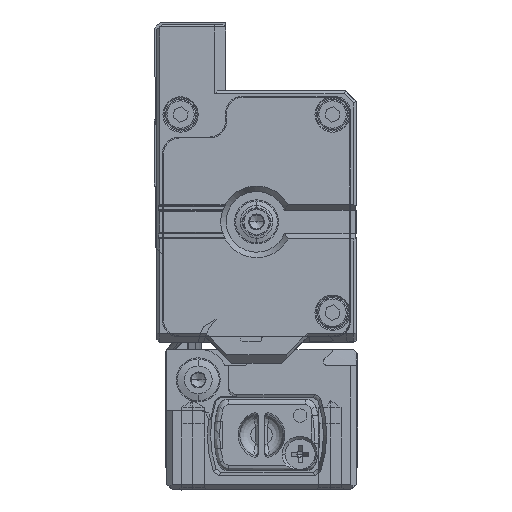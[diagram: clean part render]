
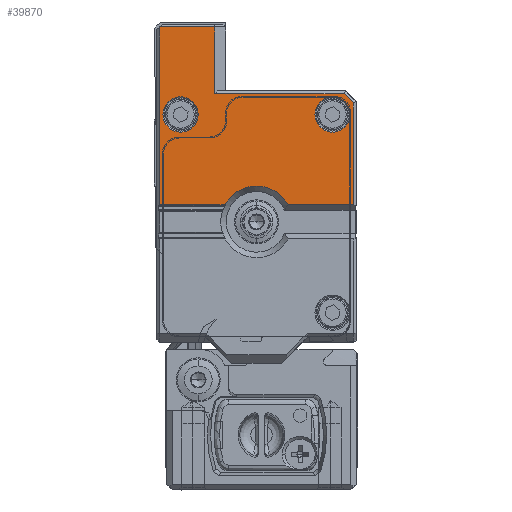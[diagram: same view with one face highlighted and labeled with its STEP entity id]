
A CAD part, left-side view. The second image highlights one B-rep face of the part: STEP entity #39870.
In plain terms, the highlighted planar face has unit normal (-1, 0, 0).
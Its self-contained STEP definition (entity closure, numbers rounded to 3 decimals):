
#34120=CARTESIAN_POINT('',(516.911,-28.8,
-61.394));
#34130=VERTEX_POINT('',#34120);
#34160=CARTESIAN_POINT('',(516.911,-28.8,
0.464));
#34170=DIRECTION('',(0.,0.,1.));
#34180=VECTOR('',#34170,1.);
#34190=LINE('',#34160,#34180);
#34200=CARTESIAN_POINT('',(516.911,-28.8,
-79.876));
#34210=VERTEX_POINT('',#34200);
#34220=EDGE_CURVE('',#34210,#34130,#34190,.T.);
#34810=CARTESIAN_POINT('',(516.911,-54.,
-81.583));
#34820=VERTEX_POINT('',#34810);
#34850=CARTESIAN_POINT('',(516.911,-54.,
-88.233));
#34860=DIRECTION('',(0.,0.,1.));
#34870=VECTOR('',#34860,1.);
#34880=LINE('',#34850,#34870);
#34890=CARTESIAN_POINT('',(516.911,-54.,
-93.683));
#34900=VERTEX_POINT('',#34890);
#34910=EDGE_CURVE('',#34900,#34820,#34880,.T.);
#36110=CARTESIAN_POINT('',(516.911,-30.507,
-81.583));
#36120=VERTEX_POINT('',#36110);
#36150=CARTESIAN_POINT('',(516.911,7.15,
-81.583));
#36160=DIRECTION('',(0.,1.,0.));
#36170=VECTOR('',#36160,1.);
#36180=LINE('',#36150,#36170);
#36190=EDGE_CURVE('',#34820,#36120,#36180,.T.);
#36390=CARTESIAN_POINT('',(516.911,-29.654,
-80.73));
#36400=DIRECTION('',(0.,0.707,
0.707));
#36410=VECTOR('',#36400,1.);
#36420=LINE('',#36390,#36410);
#36430=EDGE_CURVE('',#36120,#34210,#36420,.T.);
#38880=CARTESIAN_POINT('',(516.911,-64.,
-93.683));
#38890=VERTEX_POINT('',#38880);
#38940=CARTESIAN_POINT('',(516.911,7.15,
-93.683));
#38950=DIRECTION('',(0.,1.,0.));
#38960=VECTOR('',#38950,1.);
#38970=LINE('',#38940,#38960);
#38980=EDGE_CURVE('',#38890,#34900,#38970,.T.);
#39100=CARTESIAN_POINT('',(516.911,-51.404,
-48.302));
#39110=DIRECTION('',(-1.,0.,0.));
#39120=DIRECTION('',(0.,0.,1.));
#39130=AXIS2_PLACEMENT_3D('',#39100,#39110,#39120);
#39140=PLANE('',#39130);
#39150=CARTESIAN_POINT('',(516.911,-32.6,
-77.783));
#39160=DIRECTION('',(-1.,0.,0.));
#39170=DIRECTION('',(0.,1.,0.));
#39180=AXIS2_PLACEMENT_3D('',#39150,#39160,#39170);
#39190=CIRCLE('',#39180,3.2);
#39200=CARTESIAN_POINT('',(516.911,-29.4,
-77.783));
#39210=VERTEX_POINT('',#39200);
#39220=CARTESIAN_POINT('',(516.911,-35.8,
-77.783));
#39230=VERTEX_POINT('',#39220);
#39240=EDGE_CURVE('',#39210,#39230,#39190,.T.);
#39250=ORIENTED_EDGE('',*,*,#39240,.F.);
#39260=EDGE_CURVE('',#39230,#39210,#39190,.T.);
#39270=ORIENTED_EDGE('',*,*,#39260,.F.);
#39280=EDGE_LOOP('',(#39270,#39250));
#39290=FACE_BOUND('',#39280,.T.);
#39300=CARTESIAN_POINT('',(516.911,-60.2,
-77.783));
#39310=DIRECTION('',(-1.,0.,0.));
#39320=DIRECTION('',(0.,1.,0.));
#39330=AXIS2_PLACEMENT_3D('',#39300,#39310,#39320);
#39340=CIRCLE('',#39330,3.2);
#39350=CARTESIAN_POINT('',(516.911,-60.2,
-74.583));
#39360=VERTEX_POINT('',#39350);
#39370=CARTESIAN_POINT('',(516.911,-57.,
-77.783));
#39380=VERTEX_POINT('',#39370);
#39390=EDGE_CURVE('',#39360,#39380,#39340,.T.);
#39400=ORIENTED_EDGE('',*,*,#39390,.F.);
#39410=CARTESIAN_POINT('',(516.911,-63.4,
-77.783));
#39420=VERTEX_POINT('',#39410);
#39430=EDGE_CURVE('',#39380,#39420,#39340,.T.);
#39440=ORIENTED_EDGE('',*,*,#39430,.F.);
#39450=EDGE_CURVE('',#39420,#39360,#39340,.T.);
#39460=ORIENTED_EDGE('',*,*,#39450,.F.);
#39470=EDGE_LOOP('',(#39460,#39440,#39400));
#39480=FACE_BOUND('',#39470,.T.);
#39490=ORIENTED_EDGE('',*,*,#38980,.F.);
#39500=ORIENTED_EDGE('',*,*,#34910,.F.);
#39510=ORIENTED_EDGE('',*,*,#36190,.F.);
#39520=ORIENTED_EDGE('',*,*,#36430,.F.);
#39530=ORIENTED_EDGE('',*,*,#34220,.F.);
#39540=CARTESIAN_POINT('',(516.911,7.15,
-61.394));
#39550=DIRECTION('',(0.,1.,0.));
#39560=VECTOR('',#39550,1.);
#39570=LINE('',#39540,#39560);
#39580=CARTESIAN_POINT('',(516.911,-40.681,
-61.394));
#39590=VERTEX_POINT('',#39580);
#39600=EDGE_CURVE('',#39590,#34130,#39570,.T.);
#39610=ORIENTED_EDGE('',*,*,#39600,.T.);
#39620=CARTESIAN_POINT('',(516.911,-46.4,
-58.283));
#39630=DIRECTION('',(-1.,0.,0.));
#39640=DIRECTION('',(0.,-1.,0.));
#39650=AXIS2_PLACEMENT_3D('',#39620,#39630,#39640);
#39660=CIRCLE('',#39650,6.51);
#39670=CARTESIAN_POINT('',(516.911,-52.125,
-61.383));
#39680=VERTEX_POINT('',#39670);
#39690=EDGE_CURVE('',#39590,#39680,#39660,.T.);
#39700=ORIENTED_EDGE('',*,*,#39690,.F.);
#39710=CARTESIAN_POINT('',(516.911,7.15,
-61.383));
#39720=DIRECTION('',(0.,-1.,0.));
#39730=VECTOR('',#39720,1.);
#39740=LINE('',#39710,#39730);
#39750=CARTESIAN_POINT('',(516.911,-64.,
-61.383));
#39760=VERTEX_POINT('',#39750);
#39770=EDGE_CURVE('',#39680,#39760,#39740,.T.);
#39780=ORIENTED_EDGE('',*,*,#39770,.F.);
#39790=CARTESIAN_POINT('',(516.911,-64.,
0.464));
#39800=DIRECTION('',(0.,0.,1.));
#39810=VECTOR('',#39800,1.);
#39820=LINE('',#39790,#39810);
#39830=EDGE_CURVE('',#38890,#39760,#39820,.T.);
#39840=ORIENTED_EDGE('',*,*,#39830,.T.);
#39850=EDGE_LOOP('',(#39840,#39780,#39700,#39610,#39530,#39520,#39510,
#39500,#39490));
#39860=FACE_OUTER_BOUND('',#39850,.T.);
#39870=ADVANCED_FACE('',(#39290,#39480,#39860),#39140,.T.);
